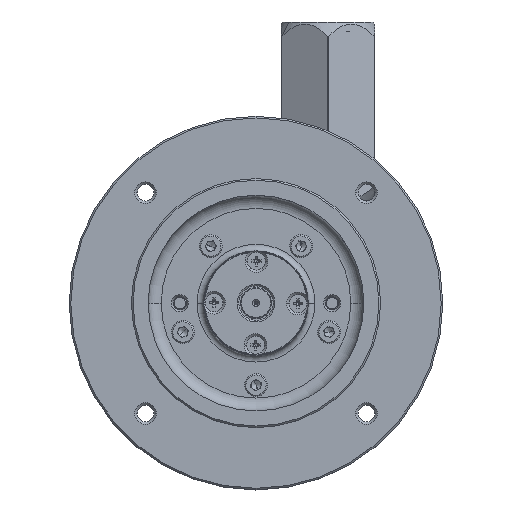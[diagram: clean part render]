
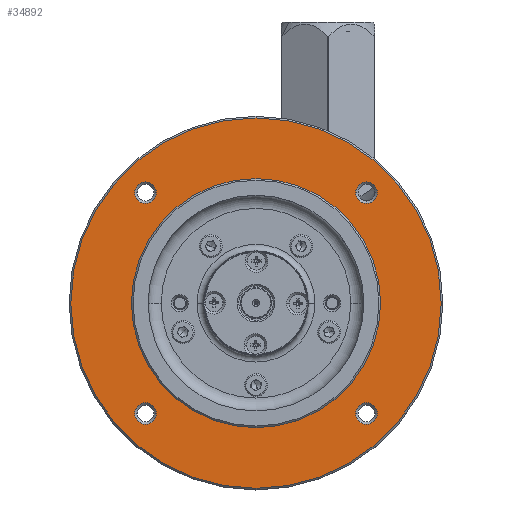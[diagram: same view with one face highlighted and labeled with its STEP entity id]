
A CAD part, top view. The second image highlights one B-rep face of the part: STEP entity #34892.
In plain terms, the highlighted planar face has unit normal (0, 0, 1).
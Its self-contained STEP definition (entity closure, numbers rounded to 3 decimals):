
#1184 = ORIENTED_EDGE ( 'NONE', *, *, #53066, .F. ) ;
#1474 = EDGE_LOOP ( 'NONE', ( #24784, #48468 ) ) ;
#1573 = EDGE_CURVE ( 'NONE', #26139, #35408, #2596, .T. ) ;
#2081 = ORIENTED_EDGE ( 'NONE', *, *, #6115, .F. ) ;
#2318 = VERTEX_POINT ( 'NONE', #41765 ) ;
#2596 = CIRCLE ( 'NONE', #14953, 3.302 ) ;
#3758 = CIRCLE ( 'NONE', #45464, 56.65 ) ;
#4014 = CIRCLE ( 'NONE', #47136, 3.302 ) ;
#4352 = VERTEX_POINT ( 'NONE', #50690 ) ;
#5859 = CARTESIAN_POINT ( 'NONE',  ( -30.478, 35.33, 30.705 ) ) ;
#6115 = EDGE_CURVE ( 'NONE', #15010, #15607, #3758, .T. ) ;
#6383 = DIRECTION ( 'NONE',  ( 0., 0., 1. ) ) ;
#6679 = DIRECTION ( 'NONE',  ( 0., 0., -1. ) ) ;
#7125 = VERTEX_POINT ( 'NONE', #8596 ) ;
#7740 = AXIS2_PLACEMENT_3D ( 'NONE', #22016, #36077, #17556 ) ;
#8596 = CARTESIAN_POINT ( 'NONE',  ( 37.082, 35.33, 30.705 ) ) ;
#8960 = ORIENTED_EDGE ( 'NONE', *, *, #37575, .F. ) ;
#9056 = EDGE_CURVE ( 'NONE', #4352, #27819, #10225, .T. ) ;
#9613 = CARTESIAN_POINT ( 'NONE',  ( -56.65, 1.55, 30.705 ) ) ;
#10056 = ORIENTED_EDGE ( 'NONE', *, *, #28667, .F. ) ;
#10225 = CIRCLE ( 'NONE', #50855, 3.302 ) ;
#11450 = EDGE_CURVE ( 'NONE', #19827, #7125, #35100, .T. ) ;
#11759 = DIRECTION ( 'NONE',  ( 0., 0., -1. ) ) ;
#13137 = EDGE_CURVE ( 'NONE', #27819, #4352, #48948, .T. ) ;
#13216 = EDGE_CURVE ( 'NONE', #40711, #57060, #28844, .T. ) ;
#14342 = FACE_BOUND ( 'NONE', #23262, .T. ) ;
#14724 = VERTEX_POINT ( 'NONE', #40267 ) ;
#14953 = AXIS2_PLACEMENT_3D ( 'NONE', #48739, #53357, #18045 ) ;
#15010 = VERTEX_POINT ( 'NONE', #9613 ) ;
#15340 = ORIENTED_EDGE ( 'NONE', *, *, #38343, .F. ) ;
#15607 = VERTEX_POINT ( 'NONE', #43160 ) ;
#17367 = CARTESIAN_POINT ( 'NONE',  ( 0., 1.55, 30.705 ) ) ;
#17502 = AXIS2_PLACEMENT_3D ( 'NONE', #58760, #45317, #22047 ) ;
#17556 = DIRECTION ( 'NONE',  ( 1., 0., 0. ) ) ;
#18045 = DIRECTION ( 'NONE',  ( -1., 0., 0. ) ) ;
#19318 = EDGE_CURVE ( 'NONE', #57060, #40711, #41545, .T. ) ;
#19653 = AXIS2_PLACEMENT_3D ( 'NONE', #30181, #11759, #57793 ) ;
#19792 = CARTESIAN_POINT ( 'NONE',  ( -33.78, -32.23, 30.705 ) ) ;
#19820 = EDGE_LOOP ( 'NONE', ( #8960, #2081 ) ) ;
#19827 = VERTEX_POINT ( 'NONE', #22860 ) ;
#20425 = CARTESIAN_POINT ( 'NONE',  ( -30.478, -32.23, 30.705 ) ) ;
#20659 = EDGE_LOOP ( 'NONE', ( #10056, #29267 ) ) ;
#20665 = ORIENTED_EDGE ( 'NONE', *, *, #11450, .F. ) ;
#22016 = CARTESIAN_POINT ( 'NONE',  ( 0., 1.55, 30.705 ) ) ;
#22047 = DIRECTION ( 'NONE',  ( -1., 0., 0. ) ) ;
#22259 = DIRECTION ( 'NONE',  ( 0., 0., 1. ) ) ;
#22860 = CARTESIAN_POINT ( 'NONE',  ( 30.478, 35.33, 30.705 ) ) ;
#23035 = FACE_OUTER_BOUND ( 'NONE', #19820, .T. ) ;
#23262 = EDGE_LOOP ( 'NONE', ( #1184, #24188 ) ) ;
#24188 = ORIENTED_EDGE ( 'NONE', *, *, #1573, .F. ) ;
#24509 = CIRCLE ( 'NONE', #54908, 3.302 ) ;
#24784 = ORIENTED_EDGE ( 'NONE', *, *, #9056, .F. ) ;
#25189 = FACE_BOUND ( 'NONE', #37033, .T. ) ;
#25290 = DIRECTION ( 'NONE',  ( 0., 0., 1. ) ) ;
#26139 = VERTEX_POINT ( 'NONE', #20425 ) ;
#26646 = DIRECTION ( 'NONE',  ( 0., 0., -1. ) ) ;
#27819 = VERTEX_POINT ( 'NONE', #5859 ) ;
#28667 = EDGE_CURVE ( 'NONE', #2318, #14724, #4014, .T. ) ;
#28686 = CARTESIAN_POINT ( 'NONE',  ( 33.78, 35.33, 30.705 ) ) ;
#28844 = CIRCLE ( 'NONE', #39567, 38.1 ) ;
#28985 = DIRECTION ( 'NONE',  ( -1., 0., 0. ) ) ;
#29267 = ORIENTED_EDGE ( 'NONE', *, *, #42878, .F. ) ;
#29471 = DIRECTION ( 'NONE',  ( -1., 0., 0. ) ) ;
#29581 = AXIS2_PLACEMENT_3D ( 'NONE', #38776, #6383, #28985 ) ;
#30172 = DIRECTION ( 'NONE',  ( -1., 0., 0. ) ) ;
#30181 = CARTESIAN_POINT ( 'NONE',  ( 0., -55.1, 30.705 ) ) ;
#30733 = CARTESIAN_POINT ( 'NONE',  ( 33.78, -32.23, 30.705 ) ) ;
#32728 = ORIENTED_EDGE ( 'NONE', *, *, #13216, .T. ) ;
#33195 = EDGE_LOOP ( 'NONE', ( #20665, #15340 ) ) ;
#33326 = DIRECTION ( 'NONE',  ( -1., 0., 0. ) ) ;
#34615 = FACE_BOUND ( 'NONE', #1474, .T. ) ;
#34780 = PLANE ( 'NONE',  #19653 ) ;
#34892 = ADVANCED_FACE ( 'NONE', ( #46783, #14342, #34615, #53211, #23035, #25189 ), #34780, .F. ) ;
#35100 = CIRCLE ( 'NONE', #29581, 3.302 ) ;
#35408 = VERTEX_POINT ( 'NONE', #49402 ) ;
#35911 = DIRECTION ( 'NONE',  ( 1., 0., 0. ) ) ;
#36077 = DIRECTION ( 'NONE',  ( 0., 0., -1. ) ) ;
#37033 = EDGE_LOOP ( 'NONE', ( #58706, #32728 ) ) ;
#37157 = CIRCLE ( 'NONE', #44114, 56.65 ) ;
#37262 = AXIS2_PLACEMENT_3D ( 'NONE', #28686, #42108, #33326 ) ;
#37575 = EDGE_CURVE ( 'NONE', #15607, #15010, #37157, .T. ) ;
#38233 = DIRECTION ( 'NONE',  ( 0., 0., 1. ) ) ;
#38343 = EDGE_CURVE ( 'NONE', #7125, #19827, #56299, .T. ) ;
#38531 = CARTESIAN_POINT ( 'NONE',  ( -33.78, 35.33, 30.705 ) ) ;
#38776 = CARTESIAN_POINT ( 'NONE',  ( 33.78, 35.33, 30.705 ) ) ;
#39567 = AXIS2_PLACEMENT_3D ( 'NONE', #59336, #59132, #35911 ) ;
#40091 = DIRECTION ( 'NONE',  ( 1., 0., 0. ) ) ;
#40267 = CARTESIAN_POINT ( 'NONE',  ( 37.082, -32.23, 30.705 ) ) ;
#40711 = VERTEX_POINT ( 'NONE', #44276 ) ;
#40988 = CARTESIAN_POINT ( 'NONE',  ( 38.1, 1.55, 30.705 ) ) ;
#41545 = CIRCLE ( 'NONE', #7740, 38.1 ) ;
#41765 = CARTESIAN_POINT ( 'NONE',  ( 30.478, -32.23, 30.705 ) ) ;
#41775 = AXIS2_PLACEMENT_3D ( 'NONE', #45138, #22259, #58581 ) ;
#42108 = DIRECTION ( 'NONE',  ( 0., 0., 1. ) ) ;
#42127 = CIRCLE ( 'NONE', #41775, 3.302 ) ;
#42878 = EDGE_CURVE ( 'NONE', #14724, #2318, #42127, .T. ) ;
#43160 = CARTESIAN_POINT ( 'NONE',  ( 56.65, 1.55, 30.705 ) ) ;
#44114 = AXIS2_PLACEMENT_3D ( 'NONE', #17367, #26646, #40091 ) ;
#44276 = CARTESIAN_POINT ( 'NONE',  ( -38.1, 1.55, 30.705 ) ) ;
#45138 = CARTESIAN_POINT ( 'NONE',  ( 33.78, -32.23, 30.705 ) ) ;
#45317 = DIRECTION ( 'NONE',  ( 0., 0., 1. ) ) ;
#45464 = AXIS2_PLACEMENT_3D ( 'NONE', #56718, #6679, #48317 ) ;
#46783 = FACE_BOUND ( 'NONE', #20659, .T. ) ;
#47136 = AXIS2_PLACEMENT_3D ( 'NONE', #30733, #48560, #58352 ) ;
#48317 = DIRECTION ( 'NONE',  ( 1., 0., 0. ) ) ;
#48468 = ORIENTED_EDGE ( 'NONE', *, *, #13137, .F. ) ;
#48560 = DIRECTION ( 'NONE',  ( 0., 0., 1. ) ) ;
#48739 = CARTESIAN_POINT ( 'NONE',  ( -33.78, -32.23, 30.705 ) ) ;
#48948 = CIRCLE ( 'NONE', #17502, 3.302 ) ;
#49402 = CARTESIAN_POINT ( 'NONE',  ( -37.082, -32.23, 30.705 ) ) ;
#50690 = CARTESIAN_POINT ( 'NONE',  ( -37.082, 35.33, 30.705 ) ) ;
#50855 = AXIS2_PLACEMENT_3D ( 'NONE', #38531, #25290, #30172 ) ;
#53066 = EDGE_CURVE ( 'NONE', #35408, #26139, #24509, .T. ) ;
#53211 = FACE_BOUND ( 'NONE', #33195, .T. ) ;
#53357 = DIRECTION ( 'NONE',  ( 0., 0., 1. ) ) ;
#54908 = AXIS2_PLACEMENT_3D ( 'NONE', #19792, #38233, #29471 ) ;
#56299 = CIRCLE ( 'NONE', #37262, 3.302 ) ;
#56718 = CARTESIAN_POINT ( 'NONE',  ( 0., 1.55, 30.705 ) ) ;
#57060 = VERTEX_POINT ( 'NONE', #40988 ) ;
#57793 = DIRECTION ( 'NONE',  ( 1., 0., 0. ) ) ;
#58352 = DIRECTION ( 'NONE',  ( -1., 0., 0. ) ) ;
#58581 = DIRECTION ( 'NONE',  ( -1., 0., 0. ) ) ;
#58706 = ORIENTED_EDGE ( 'NONE', *, *, #19318, .T. ) ;
#58760 = CARTESIAN_POINT ( 'NONE',  ( -33.78, 35.33, 30.705 ) ) ;
#59132 = DIRECTION ( 'NONE',  ( 0., 0., -1. ) ) ;
#59336 = CARTESIAN_POINT ( 'NONE',  ( 0., 1.55, 30.705 ) ) ;
